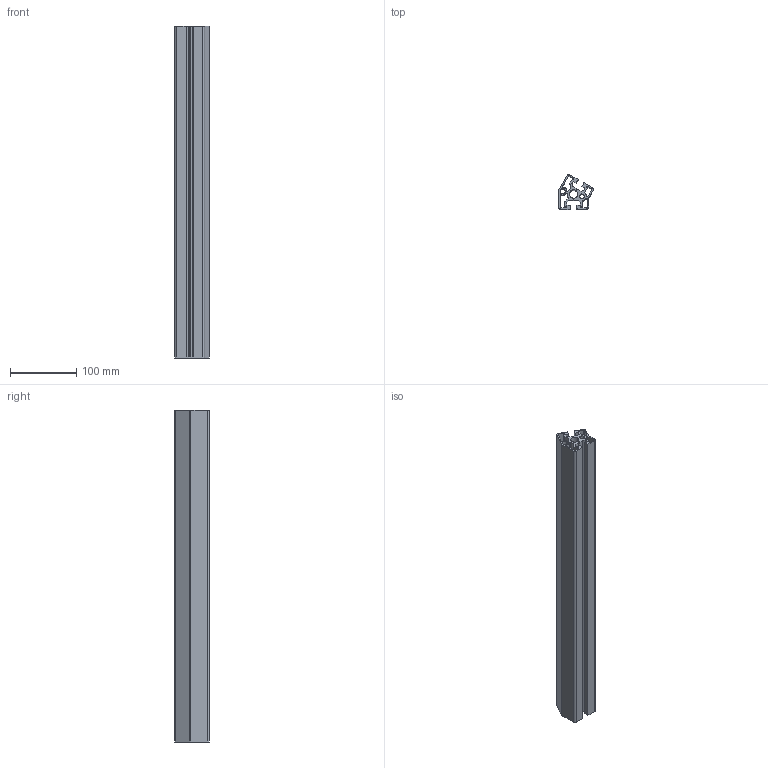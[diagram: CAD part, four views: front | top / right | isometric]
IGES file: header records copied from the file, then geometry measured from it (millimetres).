
Start section: SolidWorks IGES file using analytic representation for surfaces
Global section: file name: C:\Documents and Settings\Administrator\デスクトップ\指定保存後4回目\SolidWorks\SF\SF40・45\Frame\SFF-J84A.IGS; native system: SolidWorks 2006 by SolidWorks Corporation; preprocessor: SolidWorks 2006 by SolidWorks Corporation; author: Administrator; date: 061218.111812; units: millimetre
Bounding box: 52.14 x 52.14 x 500 mm (x, y, z)
Volume: 425307.5 mm3; surface area: 283741.4 mm2
Topology: 1 solids, 1 shells, 114 faces, 336 edges, 224 vertices
Faces by surface type: revolution 58, plane 56
